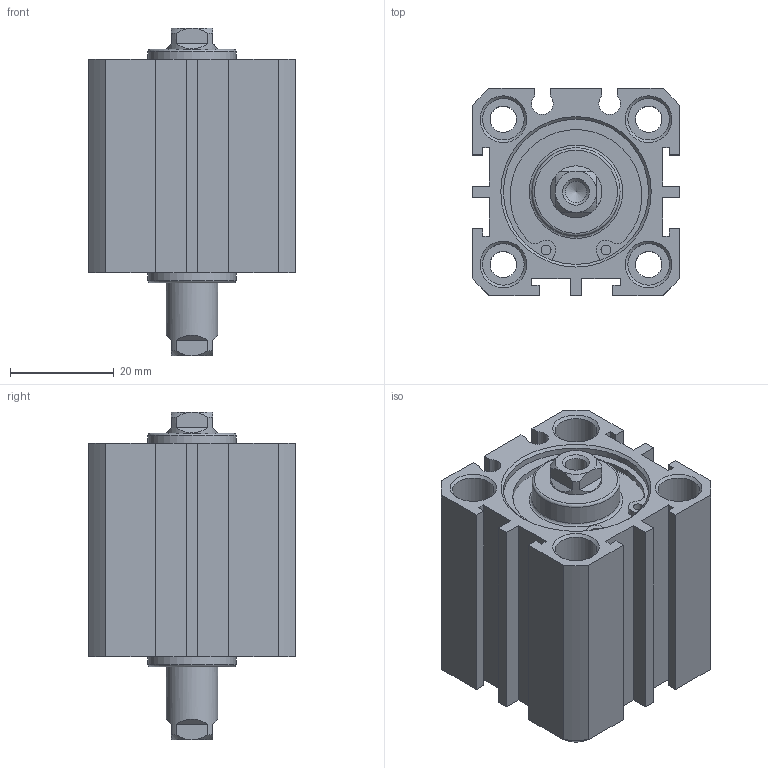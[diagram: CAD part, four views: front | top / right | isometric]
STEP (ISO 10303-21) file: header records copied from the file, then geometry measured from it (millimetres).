
FILE_DESCRIPTION((''),'2;1');
FILE_NAME('I:\3D電子目錄\氣缸\JDD\JDD-S\JDD25-S\JDD25x10-S.stp','2007-02-08T14:23:23',('662F206'),(''),'Autodesk Inventor 10','Autodesk Inventor 10','');
FILE_SCHEMA(('AUTOMOTIVE_DESIGN { 1 0 10303 214 1 1 1 1 }'));
Length unit declared in the file: millimetre
Products named in the file (3): JDD25-S; R 形環 28
Assembly tree (3 placements, depth 2):
  JDD25-S
    JDD25-S
    R 形環 28  x2
Bounding box: 40 x 40 x 63.2 mm (x, y, z)
Volume: 53140.5 mm3; surface area: 18559.3 mm2
Topology: 3 solids, 3 shells, 172 faces, 410 edges, 266 vertices
Faces by surface type: plane 92, cylinder 46, cone 22, bspline 10, torus 2
Full cylindrical faces by diameter (mm): 1.5 x2, 1.9 x4, 5.1 x4, 8 x8, 10 x2, 17 x2, 28 x4, 29.4 x2
Entity records: 4529 total; most frequent: CARTESIAN_POINT 950, DIRECTION 740, ORIENTED_EDGE 640, EDGE_CURVE 320, AXIS2_PLACEMENT_3D 280, EDGE_LOOP 244, VERTEX_POINT 236, VECTOR 180
